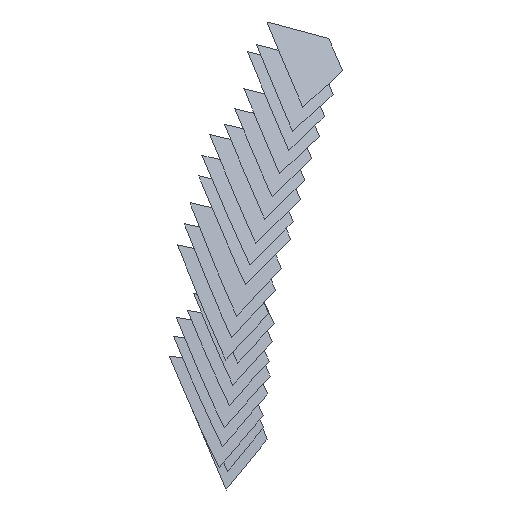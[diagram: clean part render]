
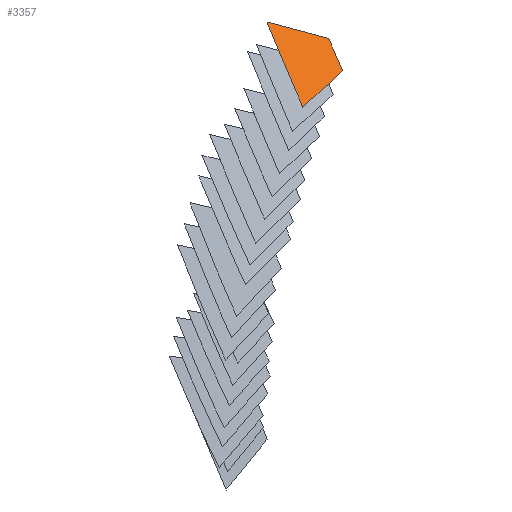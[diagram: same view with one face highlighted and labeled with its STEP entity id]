
A CAD part, front view. The second image highlights one B-rep face of the part: STEP entity #3357.
In plain terms, the highlighted free-form (B-spline) face has degree [1, 1] with [2, 2] control points.
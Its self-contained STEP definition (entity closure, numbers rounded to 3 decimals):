
#3357 = ADVANCED_FACE('',(#3358),#3371,.T.);
#3358 = FACE_BOUND('',#3359,.T.);
#3359 = EDGE_LOOP('',(#3360,#3381,#3395,#3409,#3423,#3437,#3451,#3465));
#3360 = ORIENTED_EDGE('',*,*,#3361,.T.);
#3361 = EDGE_CURVE('',#3362,#3364,#3366,.T.);
#3362 = VERTEX_POINT('',#3363);
#3363 = CARTESIAN_POINT('',(1081.524,-1757.96,
    1119.806));
#3364 = VERTEX_POINT('',#3365);
#3365 = CARTESIAN_POINT('',(1082.74,-1759.573,
    1116.867));
#3366 = SURFACE_CURVE('',#3367,(#3370),.PCURVE_S1.);
#3367 = B_SPLINE_CURVE_WITH_KNOTS('',1,(#3368,#3369),.UNSPECIFIED.,.F.,
  .F.,(2,2),(0.,3.566),.PIECEWISE_BEZIER_KNOTS.);
#3368 = CARTESIAN_POINT('',(1081.524,-1757.96,
    1119.806));
#3369 = CARTESIAN_POINT('',(1082.74,-1759.573,
    1116.867));
#3370 = PCURVE('',#3371,#3376);
#3371 = B_SPLINE_SURFACE_WITH_KNOTS('',1,1,(
    (#3372,#3373)
    ,(#3374,#3375
    )),.UNSPECIFIED.,.F.,.F.,.F.,(2,2),(2,2),(-2.66,
    4.249),(-3.013,3.327),
  .PIECEWISE_BEZIER_KNOTS.);
#3372 = CARTESIAN_POINT('',(1088.253,-1758.117,
    1116.857));
#3373 = CARTESIAN_POINT('',(1084.255,-1761.52,
    1113.302));
#3374 = CARTESIAN_POINT('',(1083.104,-1756.616,
    1121.211));
#3375 = CARTESIAN_POINT('',(1079.106,-1760.018,
    1117.656));
#3376 = DEFINITIONAL_REPRESENTATION('',(#3377),#3380);
#3377 = B_SPLINE_CURVE_WITH_KNOTS('',1,(#3378,#3379),.UNSPECIFIED.,.F.,
  .F.,(2,2),(0.,3.566),.PIECEWISE_BEZIER_KNOTS.);
#3378 = CARTESIAN_POINT('',(4.249,-0.509));
#3379 = CARTESIAN_POINT('',(1.139,1.238));
#3380 = ( GEOMETRIC_REPRESENTATION_CONTEXT(2) 
PARAMETRIC_REPRESENTATION_CONTEXT() REPRESENTATION_CONTEXT('2D SPACE',''
  ) );
#3381 = ORIENTED_EDGE('',*,*,#3382,.T.);
#3382 = EDGE_CURVE('',#3364,#3383,#3385,.T.);
#3383 = VERTEX_POINT('',#3384);
#3384 = CARTESIAN_POINT('',(1084.255,-1761.52,
    1113.302));
#3385 = SURFACE_CURVE('',#3386,(#3389),.PCURVE_S1.);
#3386 = B_SPLINE_CURVE_WITH_KNOTS('',1,(#3387,#3388),.UNSPECIFIED.,.F.,
  .F.,(2,2),(0.,4.336),.PIECEWISE_BEZIER_KNOTS.);
#3387 = CARTESIAN_POINT('',(1082.74,-1759.573,
    1116.867));
#3388 = CARTESIAN_POINT('',(1084.255,-1761.52,
    1113.302));
#3389 = PCURVE('',#3371,#3390);
#3390 = DEFINITIONAL_REPRESENTATION('',(#3391),#3394);
#3391 = B_SPLINE_CURVE_WITH_KNOTS('',1,(#3392,#3393),.UNSPECIFIED.,.F.,
  .F.,(2,2),(0.,4.336),.PIECEWISE_BEZIER_KNOTS.);
#3392 = CARTESIAN_POINT('',(1.139,1.238));
#3393 = CARTESIAN_POINT('',(-2.66,3.327));
#3394 = ( GEOMETRIC_REPRESENTATION_CONTEXT(2) 
PARAMETRIC_REPRESENTATION_CONTEXT() REPRESENTATION_CONTEXT('2D SPACE',''
  ) );
#3395 = ORIENTED_EDGE('',*,*,#3396,.T.);
#3396 = EDGE_CURVE('',#3383,#3397,#3399,.T.);
#3397 = VERTEX_POINT('',#3398);
#3398 = CARTESIAN_POINT('',(1085.265,-1760.654,
    1114.208));
#3399 = SURFACE_CURVE('',#3400,(#3403),.PCURVE_S1.);
#3400 = B_SPLINE_CURVE_WITH_KNOTS('',1,(#3401,#3402),.UNSPECIFIED.,.F.,
  .F.,(2,2),(0.,1.61),.PIECEWISE_BEZIER_KNOTS.);
#3401 = CARTESIAN_POINT('',(1084.255,-1761.52,
    1113.302));
#3402 = CARTESIAN_POINT('',(1085.265,-1760.654,
    1114.208));
#3403 = PCURVE('',#3371,#3404);
#3404 = DEFINITIONAL_REPRESENTATION('',(#3405),#3408);
#3405 = B_SPLINE_CURVE_WITH_KNOTS('',1,(#3406,#3407),.UNSPECIFIED.,.F.,
  .F.,(2,2),(0.,1.61),.PIECEWISE_BEZIER_KNOTS.);
#3406 = CARTESIAN_POINT('',(-2.66,3.327));
#3407 = CARTESIAN_POINT('',(-2.653,1.717));
#3408 = ( GEOMETRIC_REPRESENTATION_CONTEXT(2) 
PARAMETRIC_REPRESENTATION_CONTEXT() REPRESENTATION_CONTEXT('2D SPACE',''
  ) );
#3409 = ORIENTED_EDGE('',*,*,#3410,.T.);
#3410 = EDGE_CURVE('',#3397,#3411,#3413,.T.);
#3411 = VERTEX_POINT('',#3412);
#3412 = CARTESIAN_POINT('',(1086.516,-1759.575,
    1115.343));
#3413 = SURFACE_CURVE('',#3414,(#3417),.PCURVE_S1.);
#3414 = B_SPLINE_CURVE_WITH_KNOTS('',1,(#3415,#3416),.UNSPECIFIED.,.F.,
  .F.,(2,2),(0.,2.004),.PIECEWISE_BEZIER_KNOTS.);
#3415 = CARTESIAN_POINT('',(1085.265,-1760.654,
    1114.208));
#3416 = CARTESIAN_POINT('',(1086.516,-1759.575,
    1115.343));
#3417 = PCURVE('',#3371,#3418);
#3418 = DEFINITIONAL_REPRESENTATION('',(#3419),#3422);
#3419 = B_SPLINE_CURVE_WITH_KNOTS('',1,(#3420,#3421),.UNSPECIFIED.,.F.,
  .F.,(2,2),(0.,2.004),.PIECEWISE_BEZIER_KNOTS.);
#3420 = CARTESIAN_POINT('',(-2.653,1.717));
#3421 = CARTESIAN_POINT('',(-2.637,-0.287));
#3422 = ( GEOMETRIC_REPRESENTATION_CONTEXT(2) 
PARAMETRIC_REPRESENTATION_CONTEXT() REPRESENTATION_CONTEXT('2D SPACE',''
  ) );
#3423 = ORIENTED_EDGE('',*,*,#3424,.T.);
#3424 = EDGE_CURVE('',#3411,#3425,#3427,.T.);
#3425 = VERTEX_POINT('',#3426);
#3426 = CARTESIAN_POINT('',(1087.298,-1758.893,
    1116.063));
#3427 = SURFACE_CURVE('',#3428,(#3431),.PCURVE_S1.);
#3428 = B_SPLINE_CURVE_WITH_KNOTS('',1,(#3429,#3430),.UNSPECIFIED.,.F.,
  .F.,(2,2),(0.,1.263),.PIECEWISE_BEZIER_KNOTS.);
#3429 = CARTESIAN_POINT('',(1086.516,-1759.575,
    1115.343));
#3430 = CARTESIAN_POINT('',(1087.298,-1758.893,
    1116.063));
#3431 = PCURVE('',#3371,#3432);
#3432 = DEFINITIONAL_REPRESENTATION('',(#3433),#3436);
#3433 = B_SPLINE_CURVE_WITH_KNOTS('',1,(#3434,#3435),.UNSPECIFIED.,.F.,
  .F.,(2,2),(0.,1.263),.PIECEWISE_BEZIER_KNOTS.);
#3434 = CARTESIAN_POINT('',(-2.637,-0.287));
#3435 = CARTESIAN_POINT('',(-2.617,-1.55));
#3436 = ( GEOMETRIC_REPRESENTATION_CONTEXT(2) 
PARAMETRIC_REPRESENTATION_CONTEXT() REPRESENTATION_CONTEXT('2D SPACE',''
  ) );
#3437 = ORIENTED_EDGE('',*,*,#3438,.T.);
#3438 = EDGE_CURVE('',#3425,#3439,#3441,.T.);
#3439 = VERTEX_POINT('',#3440);
#3440 = CARTESIAN_POINT('',(1086.624,-1758.027,
    1117.649));
#3441 = SURFACE_CURVE('',#3442,(#3445),.PCURVE_S1.);
#3442 = B_SPLINE_CURVE_WITH_KNOTS('',1,(#3443,#3444),.UNSPECIFIED.,.F.,
  .F.,(2,2),(0.,1.929),.PIECEWISE_BEZIER_KNOTS.);
#3443 = CARTESIAN_POINT('',(1087.298,-1758.893,
    1116.063));
#3444 = CARTESIAN_POINT('',(1086.624,-1758.027,
    1117.649));
#3445 = PCURVE('',#3371,#3446);
#3446 = DEFINITIONAL_REPRESENTATION('',(#3447),#3450);
#3447 = B_SPLINE_CURVE_WITH_KNOTS('',1,(#3448,#3449),.UNSPECIFIED.,.F.,
  .F.,(2,2),(0.,1.929),.PIECEWISE_BEZIER_KNOTS.);
#3448 = CARTESIAN_POINT('',(-2.617,-1.55));
#3449 = CARTESIAN_POINT('',(-0.927,-2.479));
#3450 = ( GEOMETRIC_REPRESENTATION_CONTEXT(2) 
PARAMETRIC_REPRESENTATION_CONTEXT() REPRESENTATION_CONTEXT('2D SPACE',''
  ) );
#3451 = ORIENTED_EDGE('',*,*,#3452,.T.);
#3452 = EDGE_CURVE('',#3439,#3453,#3455,.T.);
#3453 = VERTEX_POINT('',#3454);
#3454 = CARTESIAN_POINT('',(1086.252,-1757.534,
    1118.548));
#3455 = SURFACE_CURVE('',#3456,(#3459),.PCURVE_S1.);
#3456 = B_SPLINE_CURVE_WITH_KNOTS('',1,(#3457,#3458),.UNSPECIFIED.,.F.,
  .F.,(2,2),(0.,1.09),.PIECEWISE_BEZIER_KNOTS.);
#3457 = CARTESIAN_POINT('',(1086.624,-1758.027,
    1117.649));
#3458 = CARTESIAN_POINT('',(1086.252,-1757.534,
    1118.548));
#3459 = PCURVE('',#3371,#3460);
#3460 = DEFINITIONAL_REPRESENTATION('',(#3461),#3464);
#3461 = B_SPLINE_CURVE_WITH_KNOTS('',1,(#3462,#3463),.UNSPECIFIED.,.F.,
  .F.,(2,2),(0.,1.09),.PIECEWISE_BEZIER_KNOTS.);
#3462 = CARTESIAN_POINT('',(-0.927,-2.479));
#3463 = CARTESIAN_POINT('',(0.024,-3.013));
#3464 = ( GEOMETRIC_REPRESENTATION_CONTEXT(2) 
PARAMETRIC_REPRESENTATION_CONTEXT() REPRESENTATION_CONTEXT('2D SPACE',''
  ) );
#3465 = ORIENTED_EDGE('',*,*,#3466,.T.);
#3466 = EDGE_CURVE('',#3453,#3362,#3467,.T.);
#3467 = SURFACE_CURVE('',#3468,(#3471),.PCURVE_S1.);
#3468 = B_SPLINE_CURVE_WITH_KNOTS('',1,(#3469,#3470),.UNSPECIFIED.,.F.,
  .F.,(2,2),(0.,4.911),.PIECEWISE_BEZIER_KNOTS.);
#3469 = CARTESIAN_POINT('',(1086.252,-1757.534,
    1118.548));
#3470 = CARTESIAN_POINT('',(1081.524,-1757.96,
    1119.806));
#3471 = PCURVE('',#3371,#3472);
#3472 = DEFINITIONAL_REPRESENTATION('',(#3473),#3476);
#3473 = B_SPLINE_CURVE_WITH_KNOTS('',1,(#3474,#3475),.UNSPECIFIED.,.F.,
  .F.,(2,2),(0.,4.911),.PIECEWISE_BEZIER_KNOTS.);
#3474 = CARTESIAN_POINT('',(0.024,-3.013));
#3475 = CARTESIAN_POINT('',(4.249,-0.509));
#3476 = ( GEOMETRIC_REPRESENTATION_CONTEXT(2) 
PARAMETRIC_REPRESENTATION_CONTEXT() REPRESENTATION_CONTEXT('2D SPACE',''
  ) );
